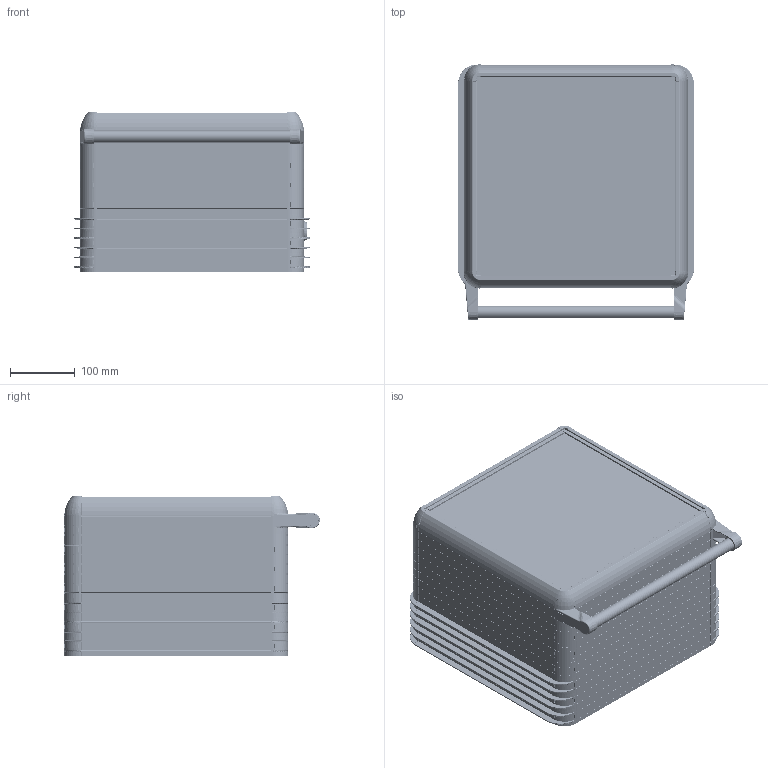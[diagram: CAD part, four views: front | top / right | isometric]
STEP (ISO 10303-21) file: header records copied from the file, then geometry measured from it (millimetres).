
FILE_DESCRIPTION (( 'STEP AP214' ), '1' );
FILE_NAME ('1591-0105.STEP', '2022-04-25T08:55:50', ( '' ), ( '' ), 'SwSTEP 2.0', 'SolidWorks 2022', '' );
FILE_SCHEMA (( 'AUTOMOTIVE_DESIGN' ));
Length unit declared in the file: millimetre
Products named in the file (21): ECO1500-0100(SOL); KLTECO-001-00; HPECOX-090-002_295; ECO90X(SAÐ)_Soðutmalý; 1591-0105; x91 vidalý 300X300; HPECOX-090-001_295; ECO1500-0000; boru_325; ARKA_KAPAK_VÝDALI_300X300; PLSECO-003; x91 delikli 295_295; PLSECO-004; ECO1500-0100(SAÐ); 1500-0105; HPECO-150-001_295; PLSECO-150-002; 300X300; ECO90X(SOL)_Soðutmalý; HPECO-150-002; PLSECO-150-001
Assembly tree (30 placements, depth 4):
  1591-0105
    1500-0105
      300X300
      HPECO-150-001_295  x4
      ECO1500-0000  x2
      ECO1500-0100(SAÐ)
        HPECO-150-002
        PLSECO-150-002
        PLSECO-150-001
        PLSECO-004  x3
        PLSECO-003
      ECO1500-0100(SOL)
      boru_325
    x91 vidalý 300X300
      ARKA_KAPAK_VÝDALI_300X300
      HPECOX-090-001_295  x2
      ECO90X(SAÐ)_Soðutmalý  x2
      ECO90X(SOL)_Soðutmalý  x2
      x91 delikli 295_295
      HPECOX-090-002_295
      KLTECO-001-00  x2
Bounding box: 365.16 x 395.81 x 247.69 mm (x, y, z)
Volume: 3253903.5 mm3; surface area: 2084837.2 mm2
Topology: 73 solids, 73 shells, 14608 faces, 37118 edges, 22284 vertices
Faces by surface type: bspline 4736, plane 4510, cylinder 3860, cone 802, torus 532, sphere 168
Entity records: 413484 total; most frequent: CARTESIAN_POINT 151602, ORIENTED_EDGE 45216, DIRECTION 32439, EDGE_CURVE 22608, VERTEX_POINT 13659, AXIS2_PLACEMENT_3D 11864, EDGE_LOOP 9303, ADVANCED_FACE 9046
